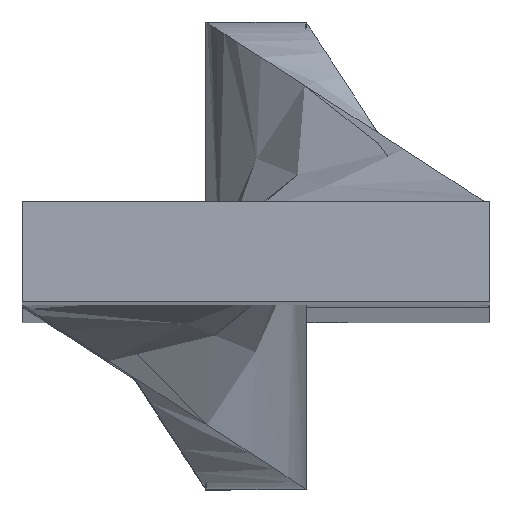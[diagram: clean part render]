
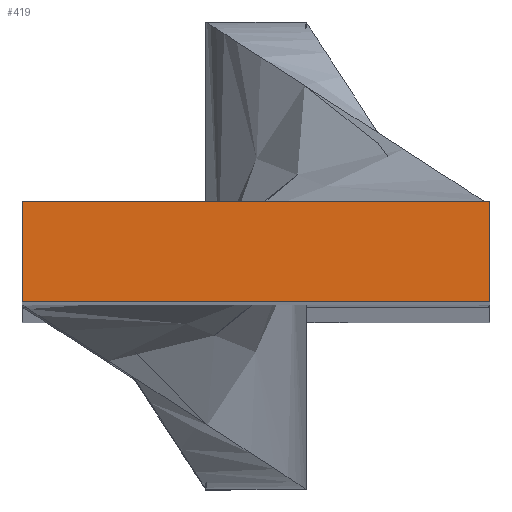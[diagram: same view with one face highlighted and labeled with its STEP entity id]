
A CAD part, top view. The second image highlights one B-rep face of the part: STEP entity #419.
In plain terms, the highlighted planar face has unit normal (0, 0, 1).
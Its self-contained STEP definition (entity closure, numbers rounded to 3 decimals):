
#12 = PLANE ( 'NONE',  #490 ) ;
#15 = EDGE_CURVE ( 'NONE', #350, #607, #425, .T. ) ;
#18 = DIRECTION ( 'NONE',  ( 0., 0., -1. ) ) ;
#21 = DIRECTION ( 'NONE',  ( -1., 0., 0. ) ) ;
#33 = VECTOR ( 'NONE', #35, 1000. ) ;
#35 = DIRECTION ( 'NONE',  ( 1., 0., 0. ) ) ;
#41 = CARTESIAN_POINT ( 'NONE',  ( -7., 1.5, 358.5 ) ) ;
#62 = CARTESIAN_POINT ( 'NONE',  ( -7., -1.5, 358.5 ) ) ;
#100 = LINE ( 'NONE', #562, #113 ) ;
#113 = VECTOR ( 'NONE', #175, 1000. ) ;
#120 = ORIENTED_EDGE ( 'NONE', *, *, #489, .F. ) ;
#142 = LINE ( 'NONE', #641, #470 ) ;
#175 = DIRECTION ( 'NONE',  ( -1., 0., 0. ) ) ;
#285 = EDGE_CURVE ( 'NONE', #458, #584, #142, .T. ) ;
#314 = LINE ( 'NONE', #41, #33 ) ;
#350 = VERTEX_POINT ( 'NONE', #62 ) ;
#388 = ORIENTED_EDGE ( 'NONE', *, *, #561, .F. ) ;
#416 = CARTESIAN_POINT ( 'NONE',  ( 7., 1.5, 358.5 ) ) ;
#419 = ADVANCED_FACE ( 'NONE', ( #628 ), #12, .F. ) ;
#425 = LINE ( 'NONE', #548, #711 ) ;
#440 = CARTESIAN_POINT ( 'NONE',  ( -7., 1.5, 358.5 ) ) ;
#449 = EDGE_LOOP ( 'NONE', ( #483, #388, #597, #120 ) ) ;
#458 = VERTEX_POINT ( 'NONE', #416 ) ;
#470 = VECTOR ( 'NONE', #594, 1000. ) ;
#483 = ORIENTED_EDGE ( 'NONE', *, *, #15, .F. ) ;
#489 = EDGE_CURVE ( 'NONE', #607, #458, #314, .T. ) ;
#490 = AXIS2_PLACEMENT_3D ( 'NONE', #509, #18, #21 ) ;
#509 = CARTESIAN_POINT ( 'NONE',  ( 0., 0., 358.5 ) ) ;
#523 = CARTESIAN_POINT ( 'NONE',  ( 7., -1.5, 358.5 ) ) ;
#541 = DIRECTION ( 'NONE',  ( 0., 1., 0. ) ) ;
#548 = CARTESIAN_POINT ( 'NONE',  ( -7., -1.5, 358.5 ) ) ;
#561 = EDGE_CURVE ( 'NONE', #584, #350, #100, .T. ) ;
#562 = CARTESIAN_POINT ( 'NONE',  ( 7., -1.5, 358.5 ) ) ;
#584 = VERTEX_POINT ( 'NONE', #523 ) ;
#594 = DIRECTION ( 'NONE',  ( 0., -1., 0. ) ) ;
#597 = ORIENTED_EDGE ( 'NONE', *, *, #285, .F. ) ;
#607 = VERTEX_POINT ( 'NONE', #440 ) ;
#628 = FACE_OUTER_BOUND ( 'NONE', #449, .T. ) ;
#641 = CARTESIAN_POINT ( 'NONE',  ( 7., 1.5, 358.5 ) ) ;
#711 = VECTOR ( 'NONE', #541, 1000. ) ;
